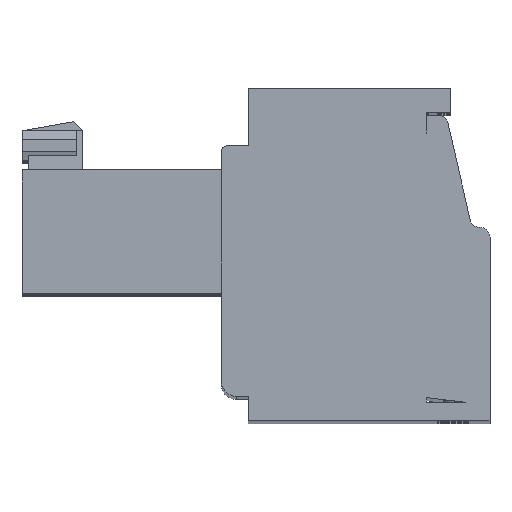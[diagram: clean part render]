
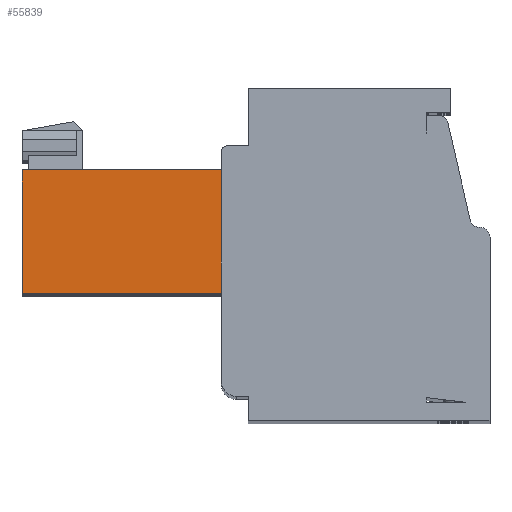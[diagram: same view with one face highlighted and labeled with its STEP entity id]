
A CAD part, top view. The second image highlights one B-rep face of the part: STEP entity #55839.
In plain terms, the highlighted planar face has unit normal (-0.015, 0, 1).
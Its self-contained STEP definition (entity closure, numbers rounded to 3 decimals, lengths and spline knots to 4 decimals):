
#21405 = CARTESIAN_POINT ( 'NONE',  ( -3.65, 4.2, -0.3 ) ) ;
#21406 = DIRECTION ( 'NONE',  ( 0., 1., 0. ) ) ;
#21407 = VECTOR ( 'NONE', #21406, 1000. ) ;
#21408 = CARTESIAN_POINT ( 'NONE',  ( -3.65, 4., -0.3 ) ) ;
#21409 = LINE ( 'NONE', #21408, #21407 ) ;
#21594 = CARTESIAN_POINT ( 'NONE',  ( -3.65, 8.3, -0.3 ) ) ;
#35247 = EDGE_CURVE ( 'NONE', #35249, #35381, #21409, .T. ) ;
#35249 = VERTEX_POINT ( 'NONE', #21405 ) ;
#35381 = VERTEX_POINT ( 'NONE', #21594 ) ;
#52825 = EDGE_CURVE ( 'NONE', #52828, #52830, #63284, .T. ) ;
#52828 = VERTEX_POINT ( 'NONE', #63280 ) ;
#52830 = VERTEX_POINT ( 'NONE', #63279 ) ;
#53143 = EDGE_LOOP ( 'NONE', ( #74013, #55800, #55804, #55806 ) ) ;
#55800 = ORIENTED_EDGE ( 'NONE', *, *, #55802, .T. ) ;
#55802 = EDGE_CURVE ( 'NONE', #35381, #52830, #66622, .T. ) ;
#55804 = ORIENTED_EDGE ( 'NONE', *, *, #52825, .F. ) ;
#55806 = ORIENTED_EDGE ( 'NONE', *, *, #55833, .F. ) ;
#55833 = EDGE_CURVE ( 'NONE', #35249, #52828, #66663, .T. ) ;
#55839 = ADVANCED_FACE ( 'NONE', ( #66659 ), #66658, .F. ) ;
#63279 = CARTESIAN_POINT ( 'NONE',  ( -10.2426, 8.3, -0.4 ) ) ;
#63280 = CARTESIAN_POINT ( 'NONE',  ( -10.2426, 4.2, -0.4 ) ) ;
#63281 = DIRECTION ( 'NONE',  ( 0., 1., 0. ) ) ;
#63282 = VECTOR ( 'NONE', #63281, 1000. ) ;
#63283 = CARTESIAN_POINT ( 'NONE',  ( -10.2426, 4., -0.4 ) ) ;
#63284 = LINE ( 'NONE', #63283, #63282 ) ;
#66619 = DIRECTION ( 'NONE',  ( -1., 0., -0.015 ) ) ;
#66620 = VECTOR ( 'NONE', #66619, 1000. ) ;
#66621 = CARTESIAN_POINT ( 'NONE',  ( -3.65, 8.3, -0.3 ) ) ;
#66622 = LINE ( 'NONE', #66621, #66620 ) ;
#66654 = DIRECTION ( 'NONE',  ( -1., 0., -0.015 ) ) ;
#66655 = DIRECTION ( 'NONE',  ( 0.015, 0., -1. ) ) ;
#66656 = CARTESIAN_POINT ( 'NONE',  ( -3.65, 4., -0.3 ) ) ;
#66657 = AXIS2_PLACEMENT_3D ( 'NONE', #66656, #66655, #66654 ) ;
#66658 = PLANE ( 'NONE',  #66657 ) ;
#66659 = FACE_OUTER_BOUND ( 'NONE', #53143, .T. ) ;
#66660 = DIRECTION ( 'NONE',  ( -1., 0., -0.015 ) ) ;
#66661 = VECTOR ( 'NONE', #66660, 1000. ) ;
#66662 = CARTESIAN_POINT ( 'NONE',  ( -3.6455, 4.2, -0.2999 ) ) ;
#66663 = LINE ( 'NONE', #66662, #66661 ) ;
#74013 = ORIENTED_EDGE ( 'NONE', *, *, #35247, .T. ) ;
